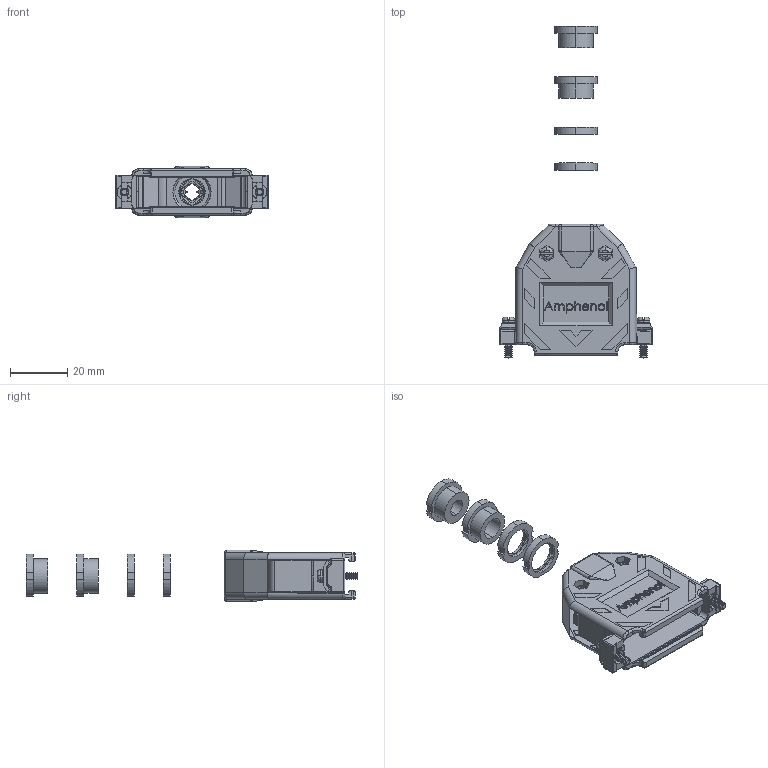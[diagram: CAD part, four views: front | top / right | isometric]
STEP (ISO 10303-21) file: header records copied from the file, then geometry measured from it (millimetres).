
FILE_DESCRIPTION (( 'STEP AP214' ), '1' );
FILE_NAME ('M-17E-1726-1-REVT4.STEP', '2014-07-25T18:12:12', ( '' ), ( '' ), 'SwSTEP 2.0', 'SolidWorks 2013', '' );
FILE_SCHEMA (( 'AUTOMOTIVE_DESIGN' ));
Length unit declared in the file: inch
Products named in the file (1): M-17E-1726-1-REVT4
Bounding box: 53.09 x 115.79 x 18.03 mm (x, y, z)
Volume: 15264.5 mm3; surface area: 14002.7 mm2
Topology: 6 solids, 6 shells, 1082 faces, 2726 edges, 1670 vertices
Faces by surface type: plane 583, cylinder 240, bspline 155, cone 104
Entity records: 46558 total; most frequent: CARTESIAN_POINT 15449, ORIENTED_EDGE 5388, DIRECTION 4340, EDGE_CURVE 2694, VERTEX_POINT 1670, VECTOR 1636, LINE 1636, AXIS2_PLACEMENT_3D 1352
